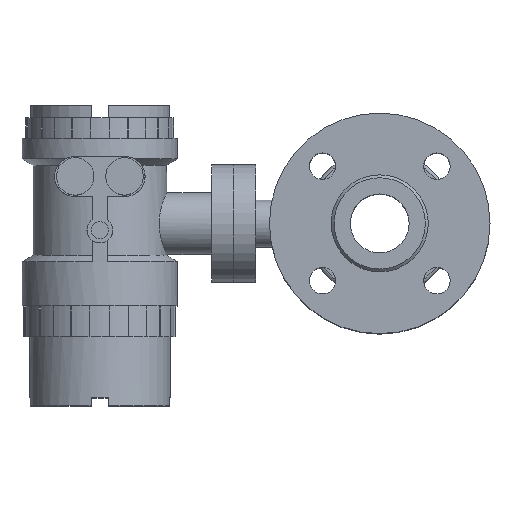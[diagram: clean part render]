
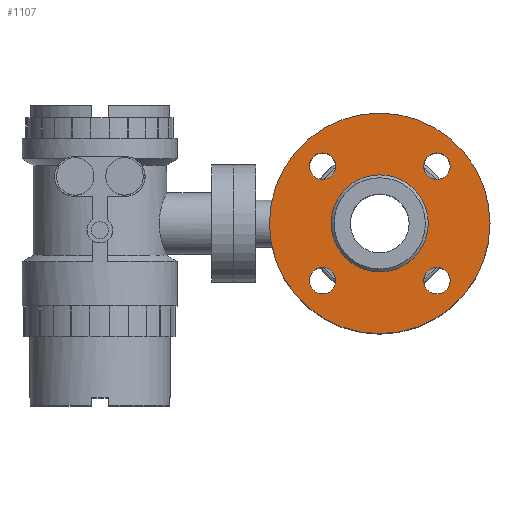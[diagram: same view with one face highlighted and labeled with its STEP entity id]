
A CAD part, top view. The second image highlights one B-rep face of the part: STEP entity #1107.
In plain terms, the highlighted planar face has unit normal (0, 0, 1).
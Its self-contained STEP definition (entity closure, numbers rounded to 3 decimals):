
#167=FACE_BOUND('',#1649,.T.);
#168=FACE_BOUND('',#1650,.T.);
#169=FACE_BOUND('',#1651,.T.);
#170=FACE_BOUND('',#1652,.T.);
#171=FACE_BOUND('',#1653,.T.);
#172=FACE_BOUND('',#1654,.T.);
#1107=ADVANCED_FACE('',(#167,#168,#169,#170,#171,#172),#1230,.T.);
#1230=PLANE('',#4256);
#1649=EDGE_LOOP('',(#2707));
#1650=EDGE_LOOP('',(#2708));
#1651=EDGE_LOOP('',(#2709));
#1652=EDGE_LOOP('',(#2710));
#1653=EDGE_LOOP('',(#2711));
#1654=EDGE_LOOP('',(#2712));
#2707=ORIENTED_EDGE('',*,*,#3636,.F.);
#2708=ORIENTED_EDGE('',*,*,#3635,.F.);
#2709=ORIENTED_EDGE('',*,*,#3634,.F.);
#2710=ORIENTED_EDGE('',*,*,#3633,.F.);
#2711=ORIENTED_EDGE('',*,*,#3639,.F.);
#2712=ORIENTED_EDGE('',*,*,#3632,.F.);
#3103=VERTEX_POINT('',#6632);
#3104=VERTEX_POINT('',#6635);
#3105=VERTEX_POINT('',#6638);
#3106=VERTEX_POINT('',#6641);
#3107=VERTEX_POINT('',#6644);
#3110=VERTEX_POINT('',#6680);
#3632=EDGE_CURVE('',#3103,#3103,#3840,.T.);
#3633=EDGE_CURVE('',#3104,#3104,#3841,.T.);
#3634=EDGE_CURVE('',#3105,#3105,#3842,.T.);
#3635=EDGE_CURVE('',#3106,#3106,#3843,.T.);
#3636=EDGE_CURVE('',#3107,#3107,#3844,.T.);
#3639=EDGE_CURVE('',#3110,#3110,#3846,.T.);
#3840=CIRCLE('',#4242,75.);
#3841=CIRCLE('',#4244,9.);
#3842=CIRCLE('',#4246,9.);
#3843=CIRCLE('',#4248,9.);
#3844=CIRCLE('',#4250,9.);
#3846=CIRCLE('',#4255,33.029);
#4242=AXIS2_PLACEMENT_3D('',#6631,#5345,#5346);
#4244=AXIS2_PLACEMENT_3D('',#6634,#5349,#5350);
#4246=AXIS2_PLACEMENT_3D('',#6637,#5353,#5354);
#4248=AXIS2_PLACEMENT_3D('',#6640,#5357,#5358);
#4250=AXIS2_PLACEMENT_3D('',#6643,#5361,#5362);
#4255=AXIS2_PLACEMENT_3D('',#6679,#5371,#5372);
#4256=AXIS2_PLACEMENT_3D('',#6681,#5373,#5374);
#5345=DIRECTION('',(0.,0.,-1.));
#5346=DIRECTION('',(1.,0.,0.));
#5349=DIRECTION('',(0.,0.,1.));
#5350=DIRECTION('',(1.,0.,0.));
#5353=DIRECTION('',(0.,0.,1.));
#5354=DIRECTION('',(1.,0.,0.));
#5357=DIRECTION('',(0.,0.,1.));
#5358=DIRECTION('',(1.,0.,0.));
#5361=DIRECTION('',(0.,0.,1.));
#5362=DIRECTION('',(1.,0.,0.));
#5371=DIRECTION('',(0.,0.,1.));
#5372=DIRECTION('',(1.,0.,0.));
#5373=DIRECTION('',(0.,0.,1.));
#5374=DIRECTION('',(0.924,0.383,0.));
#6631=CARTESIAN_POINT('',(190.3,0.,-25.5));
#6632=CARTESIAN_POINT('',(265.3,0.,-25.5));
#6634=CARTESIAN_POINT('',(229.191,-38.891,-25.5));
#6635=CARTESIAN_POINT('',(238.191,-38.891,-25.5));
#6637=CARTESIAN_POINT('',(151.409,38.891,-25.5));
#6638=CARTESIAN_POINT('',(160.409,38.891,-25.5));
#6640=CARTESIAN_POINT('',(151.409,-38.891,-25.5));
#6641=CARTESIAN_POINT('',(160.409,-38.891,-25.5));
#6643=CARTESIAN_POINT('',(229.191,38.891,-25.5));
#6644=CARTESIAN_POINT('',(238.191,38.891,-25.5));
#6679=CARTESIAN_POINT('',(190.3,0.,-25.5));
#6680=CARTESIAN_POINT('',(223.329,0.,-25.5));
#6681=CARTESIAN_POINT('',(190.3,0.,-25.5));
